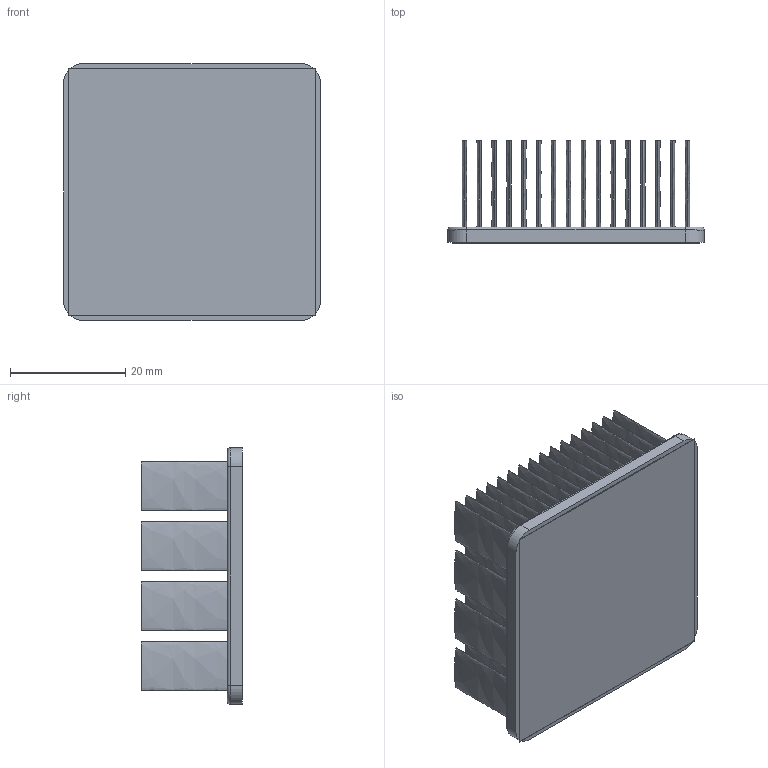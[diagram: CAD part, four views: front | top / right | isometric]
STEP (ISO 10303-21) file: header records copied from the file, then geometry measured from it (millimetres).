
FILE_DESCRIPTION (( 'STEP AP214' ), '1' );
FILE_NAME ('INM45001-18W-2.6.STEP', '2023-02-28T00:40:10', ( '' ), ( '' ), 'SwSTEP 2.0', 'SolidWorks 2020', '' );
FILE_SCHEMA (( 'AUTOMOTIVE_DESIGN' ));
Length unit declared in the file: inch
Products named in the file (1): INM45001-18W-2.6
Bounding box: 44.6 x 17.73 x 44.6 mm (x, y, z)
Volume: 10572.1 mm3; surface area: 24621.5 mm2
Topology: 2 solids, 2 shells, 216 faces, 436 edges, 288 vertices
Faces by surface type: bspline 128, plane 76, cylinder 8, torus 4
Entity records: 8759 total; most frequent: CARTESIAN_POINT 2605, ORIENTED_EDGE 872, EDGE_CURVE 436, DIRECTION 378, VERTEX_POINT 288, EDGE_LOOP 280, DIMENSIONAL_EXPONENTS 220, LENGTH_MEASURE_WITH_UNIT 220
